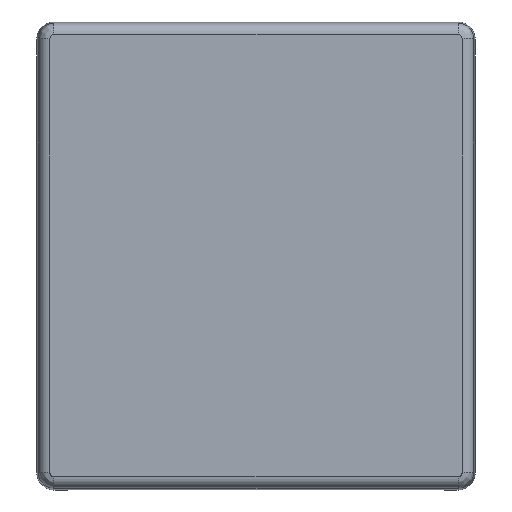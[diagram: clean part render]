
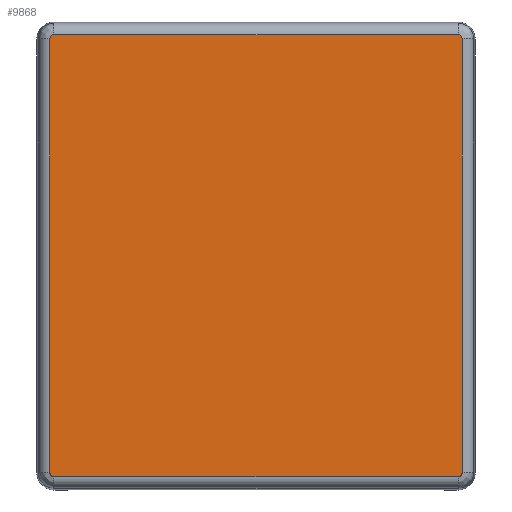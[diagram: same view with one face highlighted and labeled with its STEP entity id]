
A CAD part, top view. The second image highlights one B-rep face of the part: STEP entity #9868.
In plain terms, the highlighted planar face has unit normal (0, 0, 1).
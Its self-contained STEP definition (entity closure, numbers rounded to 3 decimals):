
#1589=CARTESIAN_POINT('',(-17.7,-19.,-0.7));
#1590=DIRECTION('',(0.,0.,-1.));
#1591=DIRECTION('',(0.,-1.,0.));
#1592=AXIS2_PLACEMENT_3D('',#1589,#1590,#1591);
#1594=CARTESIAN_POINT('',(-17.7,19.,
-0.7));
#1595=DIRECTION('',(0.,0.,-1.));
#1596=DIRECTION('',(-1.,0.,0.));
#1597=AXIS2_PLACEMENT_3D('',#1594,#1595,#1596);
#1599=CARTESIAN_POINT('',(17.7,19.,-0.7));
#1600=DIRECTION('',(0.,0.,-1.));
#1601=DIRECTION('',(0.,1.,0.));
#1602=AXIS2_PLACEMENT_3D('',#1599,#1600,#1601);
#1604=CARTESIAN_POINT('',(17.7,-19.,
-0.7));
#1605=DIRECTION('',(0.,0.,-1.));
#1606=DIRECTION('',(1.,0.,0.));
#1607=AXIS2_PLACEMENT_3D('',#1604,#1605,#1606);
#1624=DIRECTION('',(1.,0.,0.));
#1625=VECTOR('',#1624,35.4);
#1626=CARTESIAN_POINT('',(-17.7,-19.363,
-0.7));
#1627=LINE('',#1626,#1625);
#1647=DIRECTION('',(0.,1.,0.));
#1648=VECTOR('',#1647,38.);
#1649=CARTESIAN_POINT('',(18.063,-19.,
-0.7));
#1650=LINE('',#1649,#1648);
#1950=DIRECTION('',(0.,-1.,0.));
#1951=VECTOR('',#1950,38.);
#1952=CARTESIAN_POINT('',(-18.063,19.,
-0.7));
#1953=LINE('',#1952,#1951);
#1958=DIRECTION('',(-1.,0.,0.));
#1959=VECTOR('',#1958,35.4);
#1960=CARTESIAN_POINT('',(17.7,19.363,
-0.7));
#1961=LINE('',#1960,#1959);
#7468=CARTESIAN_POINT('',(17.7,19.363,
-0.7));
#7469=CARTESIAN_POINT('',(18.063,19.,-0.7));
#7470=VERTEX_POINT('',#7468);
#7471=VERTEX_POINT('',#7469);
#7472=CARTESIAN_POINT('',(-17.7,-19.363,
-0.7));
#7473=CARTESIAN_POINT('',(-18.063,-19.,-0.7));
#7474=VERTEX_POINT('',#7472);
#7475=VERTEX_POINT('',#7473);
#7476=CARTESIAN_POINT('',(-18.063,19.,
-0.7));
#7477=VERTEX_POINT('',#7476);
#7478=CARTESIAN_POINT('',(-17.7,19.363,
-0.7));
#7479=VERTEX_POINT('',#7478);
#7480=CARTESIAN_POINT('',(18.063,-19.,
-0.7));
#7481=VERTEX_POINT('',#7480);
#7482=CARTESIAN_POINT('',(17.7,-19.363,
-0.7));
#7483=VERTEX_POINT('',#7482);
#9846=CARTESIAN_POINT('',(0.,0.,-0.7));
#9847=DIRECTION('',(0.,0.,1.));
#9848=DIRECTION('',(1.,0.,0.));
#9849=AXIS2_PLACEMENT_3D('',#9846,#9847,#9848);
#9850=PLANE('',#9849);
#9852=ORIENTED_EDGE('',*,*,#9851,.T.);
#9854=ORIENTED_EDGE('',*,*,#9853,.F.);
#9856=ORIENTED_EDGE('',*,*,#9855,.T.);
#9858=ORIENTED_EDGE('',*,*,#9857,.F.);
#9859=ORIENTED_EDGE('',*,*,#9836,.T.);
#9861=ORIENTED_EDGE('',*,*,#9860,.F.);
#9863=ORIENTED_EDGE('',*,*,#9862,.T.);
#9865=ORIENTED_EDGE('',*,*,#9864,.F.);
#9866=EDGE_LOOP('',(#9852,#9854,#9856,#9858,#9859,#9861,#9863,#9865));
#9867=FACE_OUTER_BOUND('',#9866,.F.);
#9868=ADVANCED_FACE('',(#9867),#9850,.T.);
#1593=CIRCLE('',#1592,0.363);
#1598=CIRCLE('',#1597,0.363);
#1603=CIRCLE('',#1602,0.363);
#1608=CIRCLE('',#1607,0.363);
#9836=EDGE_CURVE('',#7470,#7471,#1603,.T.);
#9851=EDGE_CURVE('',#7474,#7475,#1593,.T.);
#9853=EDGE_CURVE('',#7477,#7475,#1953,.T.);
#9855=EDGE_CURVE('',#7477,#7479,#1598,.T.);
#9857=EDGE_CURVE('',#7470,#7479,#1961,.T.);
#9860=EDGE_CURVE('',#7481,#7471,#1650,.T.);
#9862=EDGE_CURVE('',#7481,#7483,#1608,.T.);
#9864=EDGE_CURVE('',#7474,#7483,#1627,.T.);
